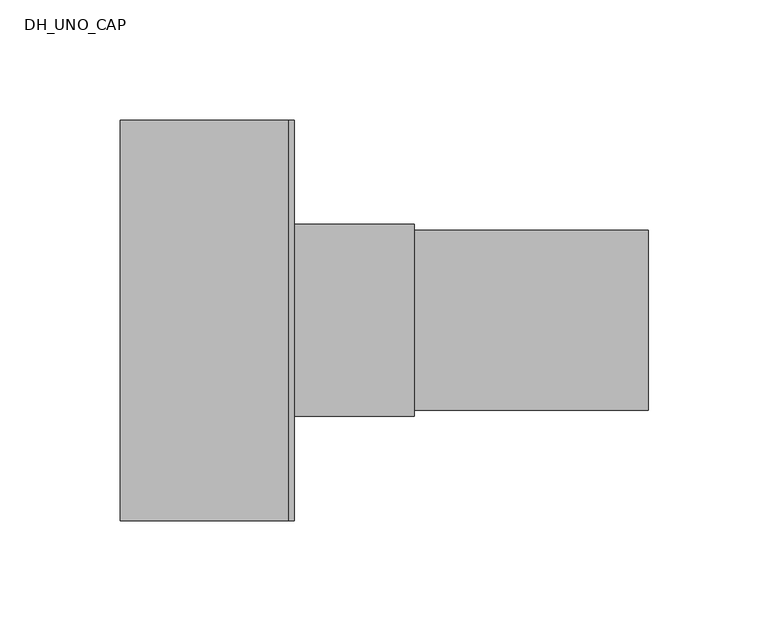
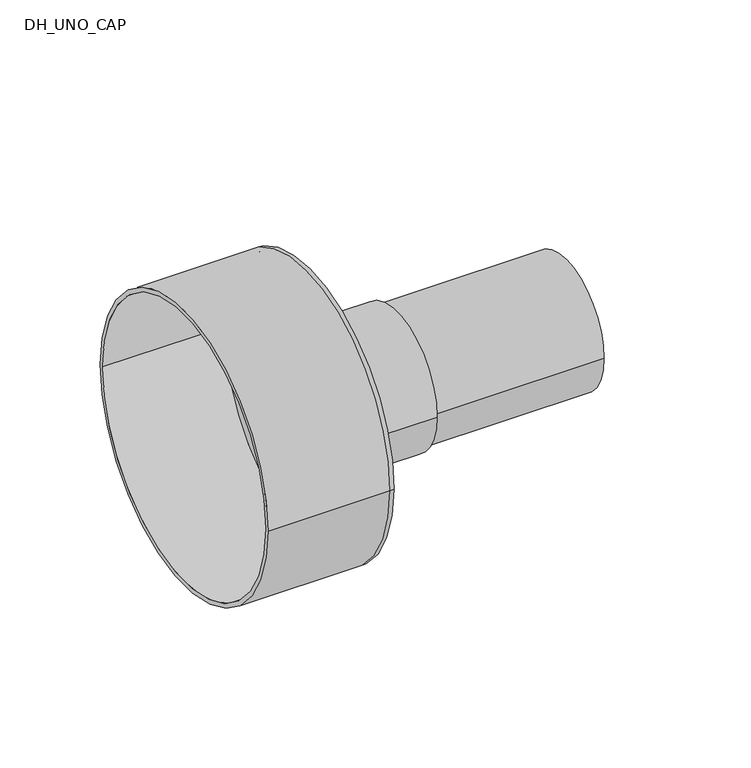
"""IFC4 building model written with IfcOpenShell, lengths in millimetres: pipe fitting geometry, DH_UNO_CAP : RAUTHERMEX UNO + 11 Heating - Schrink Cap."""

import ifcopenshell
import ifcopenshell.guid

model = None  # the IFC model being written
_history = None  # IfcOwnerHistory: only IFC2X3 demands one
_inside = {}  # id of a spatial element -> (the spatial element, [elements in it])
_under = {}  # id of a project, library or spatial element -> (it, [spatial elements below it])
_declared = {}  # id of a project -> (the project, [libraries it declares])
_typed = {}  # id of a type object -> (the type object, [elements of that type])
_made_of = {}  # id of a material, layer set ... -> (it, [elements and type objects made of it])


def new_model(schema):
    """Start an empty IFC model of exactly this schema.

    Asked for "IFC4X3", IfcOpenShell would pick the latest addendum, in which some entities
    have other attributes; the version numbers below select the first issue.
    IFC2X3 requires an IfcOwnerHistory on every rooted entity: one is made here for all.
    """
    global model, _history
    if schema == "IFC4X3":
        model = ifcopenshell.file(schema_version=(4, 3, 0, 0))
    else:
        model = ifcopenshell.file(schema=schema)
    _inside.clear()
    _under.clear()
    _declared.clear()
    _typed.clear()
    _made_of.clear()
    _history = None
    if model.schema == "IFC2X3":
        org = make("IfcOrganization", Name="unknown")
        user = make(
            "IfcPersonAndOrganization",
            ThePerson=make("IfcPerson", FamilyName="unknown"),
            TheOrganization=org,
        )
        app = make(
            "IfcApplication",
            ApplicationDeveloper=org,
            Version="unknown",
            ApplicationFullName="unknown",
            ApplicationIdentifier="unknown",
        )
        _history = make(
            "IfcOwnerHistory",
            OwningUser=user,
            OwningApplication=app,
            ChangeAction="ADDED",
            CreationDate=0,
        )
    return model


def make(cls, **values):
    """One entity of the class cls with the attributes given. An attribute that is None is left unset."""
    return model.create_entity(
        cls, **{name: value for name, value in values.items() if value is not None}
    )


def rooted(cls, **values):
    """An entity with a GlobalId (a new one), such as an element, a storey or a relation."""
    return make(cls, GlobalId=ifcopenshell.guid.new(), OwnerHistory=_history, **values)


def si_unit(unit_type, name, prefix=None):
    """IfcSIUnit, for example si_unit("LENGTHUNIT", "METRE", prefix="MILLI")."""
    return make("IfcSIUnit", UnitType=unit_type, Prefix=prefix, Name=name)


def assignment(units):
    """IfcUnitAssignment: the units of a project."""
    return None if units is None else make("IfcUnitAssignment", Units=units)


def point(xyz):
    """IfcCartesianPoint."""
    return None if xyz is None else make("IfcCartesianPoint", Coordinates=xyz)


def direction(xyz):
    """IfcDirection."""
    return None if xyz is None else make("IfcDirection", DirectionRatios=xyz)


def frame(location, z_axis=None, x_axis=None):
    """IfcAxis2Placement3D, a coordinate frame: its origin and axes. An axis left out is left unset."""
    return make(
        "IfcAxis2Placement3D",
        Location=point(location),
        Axis=direction(z_axis),
        RefDirection=direction(x_axis),
    )


def frame_2d(location, x_axis=None):
    """IfcAxis2Placement2D, a coordinate frame in the plane: its origin and x axis."""
    return make(
        "IfcAxis2Placement2D", Location=point(location), RefDirection=direction(x_axis)
    )


def origin():
    """The frame at (0, 0, 0) with its axes left unset."""
    return frame((0.0, 0.0, 0.0))


def origin_2d():
    """The frame at (0, 0) in the plane with its x axis left unset."""
    return frame_2d((0.0, 0.0))


def place(relative_to, where):
    """IfcLocalPlacement: puts the frame where relative to a parent placement (None: the world)."""
    return make(
        "IfcLocalPlacement", PlacementRelTo=relative_to, RelativePlacement=where
    )


def context(
    kind, dimensions, precision=None, world=None, true_north=None, identifier=None
):
    """IfcGeometricRepresentationContext, for example the 3D "Model" context."""
    return make(
        "IfcGeometricRepresentationContext",
        ContextIdentifier=identifier,
        ContextType=kind,
        CoordinateSpaceDimension=dimensions,
        Precision=precision,
        WorldCoordinateSystem=world,
        TrueNorth=true_north,
    )


def project(units=None, contexts=None):
    """IfcProject with its units and contexts."""
    return rooted(
        "IfcProject",
        Name="project",
        RepresentationContexts=contexts,
        UnitsInContext=assignment(units),
    )


def spatial(cls, under=None, at=None, **own):
    """A site, building, storey or space (cls), placed at a placement, below another one or the project."""
    s = rooted(cls, ObjectPlacement=at, **own)
    if under is not None:
        _under.setdefault(under.id(), (under, []))[1].append(s)
    return s


def polyline(points):
    """IfcPolyline through the points."""
    return make("IfcPolyline", Points=[point(p) for p in points])


def circle_curve(where, radius):
    """IfcCircle in the frame where."""
    return make("IfcCircle", Position=where, Radius=radius)


def trimmed(basis, trim1, trim2, sense, master):
    """IfcTrimmedCurve: the piece of a basis curve between two trims."""
    return make(
        "IfcTrimmedCurve",
        BasisCurve=basis,
        Trim1=trim1,
        Trim2=trim2,
        SenseAgreement=sense,
        MasterRepresentation=master,
    )


def segment(curve, same_sense, transition):
    """IfcCompositeCurveSegment."""
    return make(
        "IfcCompositeCurveSegment",
        Transition=transition,
        SameSense=same_sense,
        ParentCurve=curve,
    )


def composite_curve(segments, self_intersect=None):
    """IfcCompositeCurve: segments joined end to end."""
    return make("IfcCompositeCurve", Segments=segments, SelfIntersect=self_intersect)


def outline(outer, holes=None, kind="AREA"):
    """IfcArbitraryClosedProfileDef: a profile drawn as a closed curve; with holes, ...WithVoids."""
    if holes is None:
        return make("IfcArbitraryClosedProfileDef", ProfileType=kind, OuterCurve=outer)
    return make(
        "IfcArbitraryProfileDefWithVoids",
        ProfileType=kind,
        OuterCurve=outer,
        InnerCurves=holes,
    )


def extrude(swept, where, along, depth):
    """IfcExtrudedAreaSolid: the profile swept, set in the frame where, extruded along a direction by depth."""
    return make(
        "IfcExtrudedAreaSolid",
        SweptArea=swept,
        Position=where,
        ExtrudedDirection=direction(along),
        Depth=depth,
    )


def shape(context_of_items, identifier, shape_type, items):
    """IfcShapeRepresentation: the items that make up one representation, for example the "Body"."""
    return make(
        "IfcShapeRepresentation",
        ContextOfItems=context_of_items,
        RepresentationIdentifier=identifier,
        RepresentationType=shape_type,
        Items=items,
    )


def source(mapping_origin, context_of_items, identifier, shape_type, items):
    """IfcRepresentationMap: a shape defined once, which mapped items show again and again."""
    return make(
        "IfcRepresentationMap",
        MappingOrigin=mapping_origin,
        MappedRepresentation=shape(context_of_items, identifier, shape_type, items),
    )


def transform(
    local_origin,
    x_axis=None,
    y_axis=None,
    z_axis=None,
    scale=None,
    scale2=None,
    scale3=None,
    uniform=True,
):
    """IfcCartesianTransformationOperator3D, or its non-uniform kind. x_axis, y_axis, z_axis: its Axis1, 2, 3."""
    if uniform:
        return make(
            "IfcCartesianTransformationOperator3D",
            Axis1=direction(x_axis),
            Axis2=direction(y_axis),
            LocalOrigin=point(local_origin),
            Scale=scale,
            Axis3=direction(z_axis),
        )
    return make(
        "IfcCartesianTransformationOperator3DnonUniform",
        Axis1=direction(x_axis),
        Axis2=direction(y_axis),
        LocalOrigin=point(local_origin),
        Scale=scale,
        Axis3=direction(z_axis),
        Scale2=scale2,
        Scale3=scale3,
    )


def mapped(mapping_source, mapping_target):
    """IfcMappedItem: shows the shape of a source again, moved by a transform."""
    return make(
        "IfcMappedItem", MappingSource=mapping_source, MappingTarget=mapping_target
    )


def made_of(thing, what):
    """Note that an element or type object is made of a material, layer set ...; save() writes the relation."""
    if what is not None:
        _made_of.setdefault(what.id(), (what, []))[1].append(thing)
    return thing


def element(
    cls,
    number,
    at=None,
    inside=None,
    cuts=None,
    type_object=None,
    material=None,
    context=None,
    identifier="Body",
    shape_type=None,
    held_by="IfcProductDefinitionShape",
    body=None,
    shapes=None,
    **own,
):
    """One element of the class cls, such as IfcWall. Its Tag is "e" and its number.

    at: its placement. inside: the storey or other place that contains it. cuts: it is an
    opening in that element (IfcRelVoidsElement). A single representation is given by context,
    identifier, shape_type and body (its items); several are given by shapes. held_by: the class
    of the entity that holds the representations. save() writes the other relations.
    """
    e = rooted(cls, Tag="e%d" % number, ObjectPlacement=at, **own)
    if body is not None:
        shapes = [shape(context, identifier, shape_type, body)]
    if shapes is not None:
        e.Representation = make(held_by, Representations=shapes)
    if inside is not None:
        _inside.setdefault(inside.id(), (inside, []))[1].append(e)
    if cuts is not None:
        rooted(
            "IfcRelVoidsElement", RelatingBuildingElement=cuts, RelatedOpeningElement=e
        )
    if type_object is not None:
        _typed.setdefault(type_object.id(), (type_object, []))[1].append(e)
    return made_of(e, material)


def aggregate(whole, parts):
    """IfcRelAggregates: a whole, such as a stair, and the parts it consists of."""
    return rooted("IfcRelAggregates", RelatingObject=whole, RelatedObjects=parts)


def save(model, path):
    """Write the relations noted so far, then the file.

    IfcRelAggregates (storeys below a building ...), IfcRelContainedInSpatialStructure (elements
    in a storey), IfcRelDefinesByType, IfcRelAssociatesMaterial and IfcRelDeclares: one each for
    every whole, place, type object, material and project.
    """
    for whole, parts in _under.values():
        aggregate(whole, parts)
    for where, things in _inside.values():
        rooted(
            "IfcRelContainedInSpatialStructure",
            RelatedElements=things,
            RelatingStructure=where,
        )
    for kind, things in _typed.values():
        rooted("IfcRelDefinesByType", RelatedObjects=things, RelatingType=kind)
    for what, things in _made_of.values():
        rooted("IfcRelAssociatesMaterial", RelatedObjects=things, RelatingMaterial=what)
    for by, libraries in _declared.values():
        rooted("IfcRelDeclares", RelatingContext=by, RelatedDefinitions=libraries)
    model.write(path)


def plane_surface(at):
    """IfcPlane: the flat surface through the origin of the frame at, square to its z axis."""
    return make("IfcPlane", Position=at)


def cylinder_surface(at, radius):
    """IfcCylindricalSurface: all points at the distance radius from the z axis of the frame at."""
    return make("IfcCylindricalSurface", Position=at, Radius=radius)


def revolved_surface(curve, axis_point, axis_direction):
    """IfcSurfaceOfRevolution: the curve turned about the line through axis_point along axis_direction."""
    return make(
        "IfcSurfaceOfRevolution",
        SweptCurve=make("IfcArbitraryOpenProfileDef", ProfileType="CURVE", Curve=curve),
        AxisPosition=make("IfcAxis1Placement", Location=point(axis_point), Axis=direction(axis_direction)),
    )


def advanced_brep(points, edges, surfaces, faces):
    """IfcAdvancedBrep: a solid bounded by faces that lie on surfaces and meet in shared edges.

    An edge is (start, end): straight between two places in points (the first is 0);
    or (start, end, curve); or (start, end, curve, False) where it runs against its curve.
    A face is (place in surfaces, loops), or (place, loops, False) where it looks against
    its surface's normal. A loop lists edges by number (the first is 1), with a minus sign
    where the edge is run from its end to its start. The first loop is the outer one.
    """
    corners = [point(p) for p in points]
    vertices = [make("IfcVertexPoint", VertexGeometry=c) for c in corners]
    made = []
    for start, end, *more in edges:
        made.append(
            make(
                "IfcEdgeCurve",
                EdgeStart=vertices[start],
                EdgeEnd=vertices[end],
                EdgeGeometry=more[0] if more else make("IfcPolyline", Points=[corners[start], corners[end]]),
                SameSense=more[1] if len(more) > 1 else True,
            )
        )
    hull = []
    for where, loops, *sense in faces:
        bounds = []
        for j, loop in enumerate(loops):
            ring = [make("IfcOrientedEdge", EdgeElement=made[abs(k) - 1], Orientation=k > 0) for k in loop]
            bounds.append(
                make(
                    "IfcFaceOuterBound" if j == 0 else "IfcFaceBound",
                    Bound=make("IfcEdgeLoop", EdgeList=ring),
                    Orientation=True,
                )
            )
        hull.append(make("IfcAdvancedFace", Bounds=bounds, FaceSurface=surfaces[where], SameSense=sense[0] if sense else True))
    return make("IfcAdvancedBrep", Outer=make("IfcClosedShell", CfsFaces=hull))


def dh_uno_cap_a0ef613d(model_context):
    return source(origin(), model_context, "Body", "SolidModel", [
        extrude(outline(composite_curve([segment(trimmed(circle_curve(origin_2d(), 37.5), [point((-37.5, 0.0))], [point((37.5, 0.0))], False, "CARTESIAN"), True, "CONTINUOUS"), segment(trimmed(circle_curve(origin_2d(), 37.5), [point((37.5, 0.0))], [point((-37.5, 0.0))], False, "CARTESIAN"), True, "CONTINUOUS")], self_intersect=False), holes=[composite_curve([segment(trimmed(circle_curve(origin_2d(), 30.7), [point((-30.7, 0.0))], [point((30.7, 0.0))], True, "CARTESIAN"), True, "CONTINUOUS"), segment(trimmed(circle_curve(origin_2d(), 30.7), [point((30.7, 0.0))], [point((-30.7, 0.0))], True, "CARTESIAN"), True, "CONTINUOUS")], self_intersect=False)]), frame((0.0, 0.0, 0.0), z_axis=(1.0, 0.0, 0.0), x_axis=(0.0, 1.0, 0.0)), (0.0, 0.0, 1.0), 150.0),
        advanced_brep(
        [(-70.0, -83.5, 0.0), (-70.0, 83.5, 0.0), (-70.0, -81.0, 0.0), (-70.0, 81.0, 0.0), (0.0, -81.0, 0.0), (0.0, 81.0, 0.0), (0.0, -83.5, 0.0), (0.0, 83.5, 0.0), (0.0, 37.5, 0.0), (0.0, -37.5, 0.0), (2.5, -83.5, 0.0), (2.5, 83.5, 0.0), (2.5, -37.5, 0.0), (2.5, 37.5, 0.0)],
        [
            (0, 1, circle_curve(frame((-70.0, 0.0, 0.0), z_axis=(-1.0, 0.0, 0.0), x_axis=(0.0, 1.0, 0.0)), 83.5)),
            (1, 0, circle_curve(frame((-70.0, 0.0, 0.0), z_axis=(-1.0, 0.0, 0.0), x_axis=(0.0, 1.0, 0.0)), 83.5)),
            (2, 3, circle_curve(frame((-70.0, 0.0, 0.0), z_axis=(1.0, 0.0, 0.0), x_axis=(0.0, 1.0, 0.0)), 81.0)),
            (3, 2, circle_curve(frame((-70.0, 0.0, 0.0), z_axis=(1.0, 0.0, 0.0), x_axis=(0.0, 1.0, 0.0)), 81.0)),
            (2, 4),
            (4, 5, circle_curve(frame((0.0, 0.0, 0.0), z_axis=(1.0, 0.0, 0.0), x_axis=(0.0, 1.0, 0.0)), 81.0)),
            (5, 3),
            (5, 4, circle_curve(frame((0.0, 0.0, 0.0), z_axis=(1.0, 0.0, 0.0), x_axis=(0.0, 1.0, 0.0)), 81.0)),
            (0, 6),
            (6, 7, circle_curve(frame((0.0, 0.0, 0.0), z_axis=(-1.0, 0.0, 0.0), x_axis=(0.0, 1.0, 0.0)), 83.5)),
            (7, 1),
            (7, 6, circle_curve(frame((0.0, 0.0, 0.0), z_axis=(-1.0, 0.0, 0.0), x_axis=(0.0, 1.0, 0.0)), 83.5)),
            (8, 9, circle_curve(frame((0.0, 0.0, 0.0), z_axis=(1.0, 0.0, 0.0), x_axis=(0.0, 1.0, 0.0)), 37.5)),
            (9, 8, circle_curve(frame((0.0, 0.0, 0.0), z_axis=(1.0, 0.0, 0.0), x_axis=(0.0, 1.0, 0.0)), 37.5)),
            (10, 11, circle_curve(frame((2.5, 0.0, 0.0), z_axis=(1.0, 0.0, 0.0), x_axis=(0.0, 1.0, 0.0)), 83.5)),
            (11, 10, circle_curve(frame((2.5, 0.0, 0.0), z_axis=(1.0, 0.0, 0.0), x_axis=(0.0, 1.0, 0.0)), 83.5)),
            (12, 13, circle_curve(frame((2.5, 0.0, 0.0), z_axis=(-1.0, 0.0, 0.0), x_axis=(0.0, 1.0, 0.0)), 37.5)),
            (13, 12, circle_curve(frame((2.5, 0.0, 0.0), z_axis=(-1.0, 0.0, 0.0), x_axis=(0.0, 1.0, 0.0)), 37.5)),
            (11, 7),
            (6, 10),
            (8, 13),
            (12, 9),
        ],
        [
            plane_surface(frame((-70.0, 0.0, 0.0), z_axis=(-1.0, 0.0, 0.0), x_axis=(0.0, 0.0, 1.0))),
            revolved_surface(polyline([(0.0, 81.0, 0.0), (-70.0, 81.0, 0.0)]), (-70.0, 0.0, 0.0), (1.0, 0.0, 0.0)),
            cylinder_surface(frame((-70.0, 0.0, 0.0), z_axis=(-1.0, 0.0, 0.0), x_axis=(0.0, 1.0, 0.0)), 83.5),
            plane_surface(frame((0.0, 0.0, 0.0), z_axis=(-1.0, 0.0, 0.0), x_axis=(0.0, 0.0, 1.0))),
            plane_surface(frame((2.5, 0.0, 0.0), z_axis=(1.0, 0.0, 0.0), x_axis=(0.0, 0.0, 1.0))),
            cylinder_surface(frame((0.0, 0.0, 0.0), z_axis=(-1.0, 0.0, 0.0), x_axis=(0.0, 1.0, 0.0)), 83.5),
            revolved_surface(polyline([(0.0, 37.5, 0.0), (2.5, 37.5, 0.0)]), (0.0, 0.0, 0.0), (-1.0, 0.0, 0.0)),
        ],
        [
            (0, [[1, 2], [3, 4]]),
            (1, [[-3, 5, 6, 7]]),
            (1, [[-4, -7, 8, -5]]),
            (2, [[-1, 9, 10, 11]]),
            (2, [[-2, -11, 12, -9]]),
            (3, [[-6, -8], [13, 14]]),
            (4, [[15, 16], [17, 18]]),
            (5, [[-16, 19, -10, 20]]),
            (5, [[-15, -20, -12, -19]]),
            (6, [[21, -17, 22, -13]]),
            (6, [[-21, -14, -22, -18]]),
        ],
    ),
        extrude(outline(composite_curve([segment(trimmed(circle_curve(origin_2d(), 40.0), [point((-40.0, 0.0))], [point((40.0, 0.0))], False, "CARTESIAN"), True, "CONTINUOUS"), segment(trimmed(circle_curve(origin_2d(), 40.0), [point((40.0, 0.0))], [point((-40.0, 0.0))], False, "CARTESIAN"), True, "CONTINUOUS")], self_intersect=False), holes=[composite_curve([segment(trimmed(circle_curve(origin_2d(), 37.5), [point((-37.5, 0.0))], [point((37.5, 0.0))], True, "CARTESIAN"), True, "CONTINUOUS"), segment(trimmed(circle_curve(origin_2d(), 37.5), [point((37.5, 0.0))], [point((-37.5, 0.0))], True, "CARTESIAN"), True, "CONTINUOUS")], self_intersect=False)]), frame((2.5, 0.0, 0.0), z_axis=(1.0, 0.0, 0.0), x_axis=(0.0, 1.0, 0.0)), (0.0, 0.0, 1.0), 50.0),
    ])


if __name__ == "__main__":
    model = new_model("IFC4")
    model_context = context("Model", 3, world=origin())
    ifc_project = project(units=[si_unit("LENGTHUNIT", "METRE", prefix="MILLI")], contexts=[model_context])
    site = spatial("IfcSite", under=ifc_project)
    building = spatial("IfcBuilding", under=site)
    placement = place(None, origin())
    dh_uno_cap_shape = dh_uno_cap_a0ef613d(model_context)
    element("IfcPipeFitting", 1, ObjectType="DH_UNO_CAP : RAUTHERMEX UNO + 11 Heating - Schrink Cap", at=placement, inside=building, context=model_context, shape_type="MappedRepresentation", body=[
        mapped(dh_uno_cap_shape, transform((0.0, 0.0, 0.0), x_axis=(1.0, 0.0, 0.0), y_axis=(0.0, 1.0, 0.0), z_axis=(0.0, 0.0, 1.0))),
    ])
    save(model, "model.ifc")
